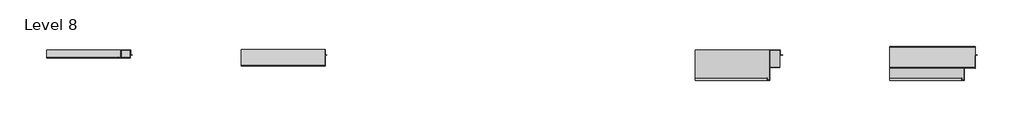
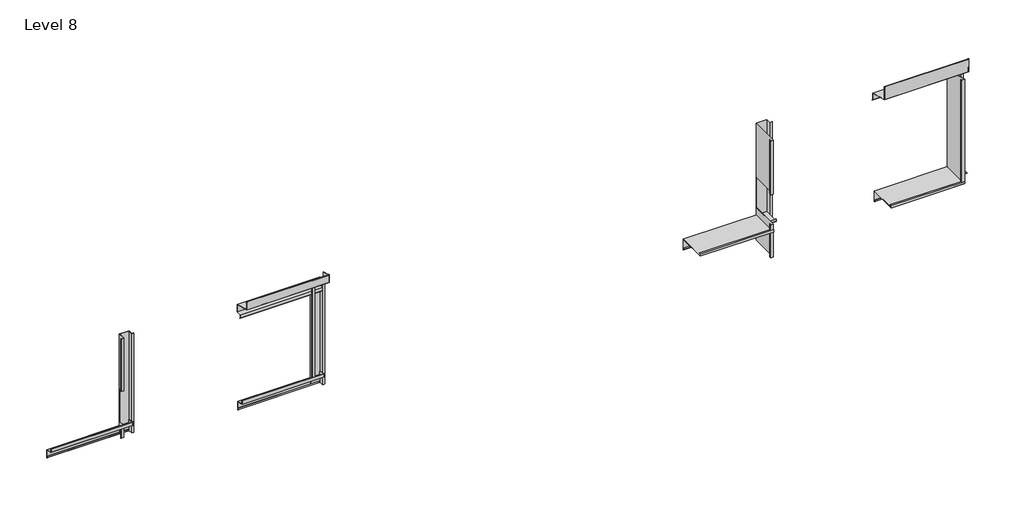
# One storey, incomplete: 12 proxies.
"""IFC4 building model written with IfcOpenShell, lengths in millimetres."""

import ifcopenshell
import ifcopenshell.guid

model = None  # the IFC model being written
_history = None  # IfcOwnerHistory: only IFC2X3 demands one
_inside = {}  # id of a spatial element -> (the spatial element, [elements in it])
_under = {}  # id of a project, library or spatial element -> (it, [spatial elements below it])
_declared = {}  # id of a project -> (the project, [libraries it declares])
_typed = {}  # id of a type object -> (the type object, [elements of that type])
_made_of = {}  # id of a material, layer set ... -> (it, [elements and type objects made of it])


def new_model(schema):
    """Start an empty IFC model of exactly this schema.

    Asked for "IFC4X3", IfcOpenShell would pick the latest addendum, in which some entities
    have other attributes; the version numbers below select the first issue.
    IFC2X3 requires an IfcOwnerHistory on every rooted entity: one is made here for all.
    """
    global model, _history
    if schema == "IFC4X3":
        model = ifcopenshell.file(schema_version=(4, 3, 0, 0))
    else:
        model = ifcopenshell.file(schema=schema)
    _inside.clear()
    _under.clear()
    _declared.clear()
    _typed.clear()
    _made_of.clear()
    _history = None
    if model.schema == "IFC2X3":
        org = make("IfcOrganization", Name="unknown")
        user = make(
            "IfcPersonAndOrganization",
            ThePerson=make("IfcPerson", FamilyName="unknown"),
            TheOrganization=org,
        )
        app = make(
            "IfcApplication",
            ApplicationDeveloper=org,
            Version="unknown",
            ApplicationFullName="unknown",
            ApplicationIdentifier="unknown",
        )
        _history = make(
            "IfcOwnerHistory",
            OwningUser=user,
            OwningApplication=app,
            ChangeAction="ADDED",
            CreationDate=0,
        )
    return model


def make(cls, **values):
    """One entity of the class cls with the attributes given. An attribute that is None is left unset."""
    return model.create_entity(
        cls, **{name: value for name, value in values.items() if value is not None}
    )


def rooted(cls, **values):
    """An entity with a GlobalId (a new one), such as an element, a storey or a relation."""
    return make(cls, GlobalId=ifcopenshell.guid.new(), OwnerHistory=_history, **values)


def si_unit(unit_type, name, prefix=None):
    """IfcSIUnit, for example si_unit("LENGTHUNIT", "METRE", prefix="MILLI")."""
    return make("IfcSIUnit", UnitType=unit_type, Prefix=prefix, Name=name)


def assignment(units):
    """IfcUnitAssignment: the units of a project."""
    return None if units is None else make("IfcUnitAssignment", Units=units)


def point(xyz):
    """IfcCartesianPoint."""
    return None if xyz is None else make("IfcCartesianPoint", Coordinates=xyz)


def direction(xyz):
    """IfcDirection."""
    return None if xyz is None else make("IfcDirection", DirectionRatios=xyz)


def frame(location, z_axis=None, x_axis=None):
    """IfcAxis2Placement3D, a coordinate frame: its origin and axes. An axis left out is left unset."""
    return make(
        "IfcAxis2Placement3D",
        Location=point(location),
        Axis=direction(z_axis),
        RefDirection=direction(x_axis),
    )


def frame_2d(location, x_axis=None):
    """IfcAxis2Placement2D, a coordinate frame in the plane: its origin and x axis."""
    return make(
        "IfcAxis2Placement2D", Location=point(location), RefDirection=direction(x_axis)
    )


def origin():
    """The frame at (0, 0, 0) with its axes left unset."""
    return frame((0.0, 0.0, 0.0))


def place(relative_to, where):
    """IfcLocalPlacement: puts the frame where relative to a parent placement (None: the world)."""
    return make(
        "IfcLocalPlacement", PlacementRelTo=relative_to, RelativePlacement=where
    )


def context(
    kind, dimensions, precision=None, world=None, true_north=None, identifier=None
):
    """IfcGeometricRepresentationContext, for example the 3D "Model" context."""
    return make(
        "IfcGeometricRepresentationContext",
        ContextIdentifier=identifier,
        ContextType=kind,
        CoordinateSpaceDimension=dimensions,
        Precision=precision,
        WorldCoordinateSystem=world,
        TrueNorth=true_north,
    )


def project(units=None, contexts=None):
    """IfcProject with its units and contexts."""
    return rooted(
        "IfcProject",
        Name="project",
        RepresentationContexts=contexts,
        UnitsInContext=assignment(units),
    )


def spatial(cls, under=None, at=None, **own):
    """A site, building, storey or space (cls), placed at a placement, below another one or the project."""
    s = rooted(cls, ObjectPlacement=at, **own)
    if under is not None:
        _under.setdefault(under.id(), (under, []))[1].append(s)
    return s


def polyline(points):
    """IfcPolyline through the points."""
    return make("IfcPolyline", Points=[point(p) for p in points])


def circle_curve(where, radius):
    """IfcCircle in the frame where."""
    return make("IfcCircle", Position=where, Radius=radius)


def trimmed(basis, trim1, trim2, sense, master):
    """IfcTrimmedCurve: the piece of a basis curve between two trims."""
    return make(
        "IfcTrimmedCurve",
        BasisCurve=basis,
        Trim1=trim1,
        Trim2=trim2,
        SenseAgreement=sense,
        MasterRepresentation=master,
    )


def segment(curve, same_sense, transition):
    """IfcCompositeCurveSegment."""
    return make(
        "IfcCompositeCurveSegment",
        Transition=transition,
        SameSense=same_sense,
        ParentCurve=curve,
    )


def composite_curve(segments, self_intersect=None):
    """IfcCompositeCurve: segments joined end to end."""
    return make("IfcCompositeCurve", Segments=segments, SelfIntersect=self_intersect)


def outline(outer, holes=None, kind="AREA"):
    """IfcArbitraryClosedProfileDef: a profile drawn as a closed curve; with holes, ...WithVoids."""
    if holes is None:
        return make("IfcArbitraryClosedProfileDef", ProfileType=kind, OuterCurve=outer)
    return make(
        "IfcArbitraryProfileDefWithVoids",
        ProfileType=kind,
        OuterCurve=outer,
        InnerCurves=holes,
    )


def extrude(swept, where, along, depth):
    """IfcExtrudedAreaSolid: the profile swept, set in the frame where, extruded along a direction by depth."""
    return make(
        "IfcExtrudedAreaSolid",
        SweptArea=swept,
        Position=where,
        ExtrudedDirection=direction(along),
        Depth=depth,
    )


def faces_of(points, faces, orient=None, outer=None):
    """IfcFace entities. A face is a list of loops; a loop is a list of indices into points, from 0.

    orient and outer hold one flag for each loop. By default every Orientation is true, the
    first loop of a face is its IfcFaceOuterBound and the others are IfcFaceBound.
    """
    made = []
    for i, loops in enumerate(faces):
        bounds = []
        for j, loop in enumerate(loops):
            is_outer = j == 0 if outer is None else outer[i][j]
            bounds.append(
                make(
                    "IfcFaceOuterBound" if is_outer else "IfcFaceBound",
                    Bound=make("IfcPolyLoop", Polygon=[points[k] for k in loop]),
                    Orientation=True if orient is None else orient[i][j],
                )
            )
        made.append(make("IfcFace", Bounds=bounds))
    return made


def faceted_brep(points, faces, orient=None, outer=None, voids=None):
    """IfcFacetedBrep: a solid bounded by flat faces; with voids (closed shells), ...WithVoids."""
    shared = [point(p) for p in points]
    hull = make("IfcClosedShell", CfsFaces=faces_of(shared, faces, orient, outer))
    if voids is None:
        return make("IfcFacetedBrep", Outer=hull)
    return make(
        "IfcFacetedBrepWithVoids",
        Outer=hull,
        Voids=[
            make(cls, CfsFaces=faces_of(shared, fs, o, b)) for cls, fs, o, b in voids
        ],
    )


def shape(context_of_items, identifier, shape_type, items):
    """IfcShapeRepresentation: the items that make up one representation, for example the "Body"."""
    return make(
        "IfcShapeRepresentation",
        ContextOfItems=context_of_items,
        RepresentationIdentifier=identifier,
        RepresentationType=shape_type,
        Items=items,
    )


def source(mapping_origin, context_of_items, identifier, shape_type, items):
    """IfcRepresentationMap: a shape defined once, which mapped items show again and again."""
    return make(
        "IfcRepresentationMap",
        MappingOrigin=mapping_origin,
        MappedRepresentation=shape(context_of_items, identifier, shape_type, items),
    )


def transform(
    local_origin,
    x_axis=None,
    y_axis=None,
    z_axis=None,
    scale=None,
    scale2=None,
    scale3=None,
    uniform=True,
):
    """IfcCartesianTransformationOperator3D, or its non-uniform kind. x_axis, y_axis, z_axis: its Axis1, 2, 3."""
    if uniform:
        return make(
            "IfcCartesianTransformationOperator3D",
            Axis1=direction(x_axis),
            Axis2=direction(y_axis),
            LocalOrigin=point(local_origin),
            Scale=scale,
            Axis3=direction(z_axis),
        )
    return make(
        "IfcCartesianTransformationOperator3DnonUniform",
        Axis1=direction(x_axis),
        Axis2=direction(y_axis),
        LocalOrigin=point(local_origin),
        Scale=scale,
        Axis3=direction(z_axis),
        Scale2=scale2,
        Scale3=scale3,
    )


def mapped(mapping_source, mapping_target):
    """IfcMappedItem: shows the shape of a source again, moved by a transform."""
    return make(
        "IfcMappedItem", MappingSource=mapping_source, MappingTarget=mapping_target
    )


def made_of(thing, what):
    """Note that an element or type object is made of a material, layer set ...; save() writes the relation."""
    if what is not None:
        _made_of.setdefault(what.id(), (what, []))[1].append(thing)
    return thing


def element(
    cls,
    number,
    at=None,
    inside=None,
    cuts=None,
    type_object=None,
    material=None,
    context=None,
    identifier="Body",
    shape_type=None,
    held_by="IfcProductDefinitionShape",
    body=None,
    shapes=None,
    **own,
):
    """One element of the class cls, such as IfcWall. Its Tag is "e" and its number.

    at: its placement. inside: the storey or other place that contains it. cuts: it is an
    opening in that element (IfcRelVoidsElement). A single representation is given by context,
    identifier, shape_type and body (its items); several are given by shapes. held_by: the class
    of the entity that holds the representations. save() writes the other relations.
    """
    e = rooted(cls, Tag="e%d" % number, ObjectPlacement=at, **own)
    if body is not None:
        shapes = [shape(context, identifier, shape_type, body)]
    if shapes is not None:
        e.Representation = make(held_by, Representations=shapes)
    if inside is not None:
        _inside.setdefault(inside.id(), (inside, []))[1].append(e)
    if cuts is not None:
        rooted(
            "IfcRelVoidsElement", RelatingBuildingElement=cuts, RelatedOpeningElement=e
        )
    if type_object is not None:
        _typed.setdefault(type_object.id(), (type_object, []))[1].append(e)
    return made_of(e, material)


def aggregate(whole, parts):
    """IfcRelAggregates: a whole, such as a stair, and the parts it consists of."""
    return rooted("IfcRelAggregates", RelatingObject=whole, RelatedObjects=parts)


def save(model, path):
    """Write the relations noted so far, then the file.

    IfcRelAggregates (storeys below a building ...), IfcRelContainedInSpatialStructure (elements
    in a storey), IfcRelDefinesByType, IfcRelAssociatesMaterial and IfcRelDeclares: one each for
    every whole, place, type object, material and project.
    """
    for whole, parts in _under.values():
        aggregate(whole, parts)
    for where, things in _inside.values():
        rooted(
            "IfcRelContainedInSpatialStructure",
            RelatedElements=things,
            RelatingStructure=where,
        )
    for kind, things in _typed.values():
        rooted("IfcRelDefinesByType", RelatedObjects=things, RelatingType=kind)
    for what, things in _made_of.values():
        rooted("IfcRelAssociatesMaterial", RelatedObjects=things, RelatingMaterial=what)
    for by, libraries in _declared.values():
        rooted("IfcRelDeclares", RelatingContext=by, RelatedDefinitions=libraries)
    model.write(path)


def plane_surface(at):
    """IfcPlane: the flat surface through the origin of the frame at, square to its z axis."""
    return make("IfcPlane", Position=at)


def cylinder_surface(at, radius):
    """IfcCylindricalSurface: all points at the distance radius from the z axis of the frame at."""
    return make("IfcCylindricalSurface", Position=at, Radius=radius)


def revolved_surface(curve, axis_point, axis_direction):
    """IfcSurfaceOfRevolution: the curve turned about the line through axis_point along axis_direction."""
    return make(
        "IfcSurfaceOfRevolution",
        SweptCurve=make("IfcArbitraryOpenProfileDef", ProfileType="CURVE", Curve=curve),
        AxisPosition=make("IfcAxis1Placement", Location=point(axis_point), Axis=direction(axis_direction)),
    )


def advanced_brep(points, edges, surfaces, faces):
    """IfcAdvancedBrep: a solid bounded by faces that lie on surfaces and meet in shared edges.

    An edge is (start, end): straight between two places in points (the first is 0);
    or (start, end, curve); or (start, end, curve, False) where it runs against its curve.
    A face is (place in surfaces, loops), or (place, loops, False) where it looks against
    its surface's normal. A loop lists edges by number (the first is 1), with a minus sign
    where the edge is run from its end to its start. The first loop is the outer one.
    """
    corners = [point(p) for p in points]
    vertices = [make("IfcVertexPoint", VertexGeometry=c) for c in corners]
    made = []
    for start, end, *more in edges:
        made.append(
            make(
                "IfcEdgeCurve",
                EdgeStart=vertices[start],
                EdgeEnd=vertices[end],
                EdgeGeometry=more[0] if more else make("IfcPolyline", Points=[corners[start], corners[end]]),
                SameSense=more[1] if len(more) > 1 else True,
            )
        )
    hull = []
    for where, loops, *sense in faces:
        bounds = []
        for j, loop in enumerate(loops):
            ring = [make("IfcOrientedEdge", EdgeElement=made[abs(k) - 1], Orientation=k > 0) for k in loop]
            bounds.append(
                make(
                    "IfcFaceOuterBound" if j == 0 else "IfcFaceBound",
                    Bound=make("IfcEdgeLoop", EdgeList=ring),
                    Orientation=True,
                )
            )
        hull.append(make("IfcAdvancedFace", Bounds=bounds, FaceSurface=surfaces[where], SameSense=sense[0] if sense else True))
    return make("IfcAdvancedBrep", Outer=make("IfcClosedShell", CfsFaces=hull))


def compressible_foam_seal_compressible_foam_seal_e6ba9b4f(model_context):
    return source(origin(), model_context, "Body", "SweptSolid", [
        extrude(outline(polyline([(659.8333305, -343.5448265), (672.2344915, -346.8677076), (672.2344915, -384.0410003), (659.8333305, -384.0410003), (659.8333305, -343.5448265)])), frame((13512.8302563, 0.0, 0.0), z_axis=(1.0, 0.0, 0.0), x_axis=(0.0, 1.0, 0.0)), (0.0, 0.0, 1.0), 179.5239223),
    ])


def flashing_recessed_window_jamb1_flashing_recessed_window_jamb_9e5676da(model_context):
    return source(origin(), model_context, "Body", "Brep", [
        faceted_brep([(13692.8541786, 626.9865096, -1055.1751138), (13692.8541786, 657.7344915, -1055.1751138), (13627.4791786, 657.7344915, -1055.1751138), (13627.4791786, 656.8026399, -1055.1751138), (13626.4791786, 656.8026399, -1055.1751138), (13626.4791786, 658.7344915, -1055.1751138), (13693.8541786, 658.7344915, -1055.1751138), (13693.8541786, 627.9865096, -1055.1751138), (13708.8541786, 627.9865096, -1055.1751138), (13708.8541786, 626.9865096, -1055.1751138), (13693.8541786, 658.7344915, -343.2151173), (13693.8541786, 627.9865096, -334.9762204), (13626.4791786, 658.7344915, -343.2151173), (13626.4791786, 656.8026399, -985.662203), (13626.4791786, 472.3615096, -985.662203), (13626.4791786, 472.3615096, -293.2766273), (13612.4791786, 472.3615096, -293.2766273), (13612.4791786, 472.3615096, -985.662203), (13612.4791786, 484.6872381, -296.5792963), (13612.4791786, 484.6872381, -985.662203), (13611.4791786, 484.6872381, -296.5792963), (13611.4791786, 484.6872381, -985.662203), (13611.4791786, 471.3615096, -293.0086781), (13611.4791786, 471.3615096, -985.662203), (13627.4791786, 471.3615096, -293.0086781), (13627.4791786, 471.3615096, -985.662203), (13627.4791786, 657.7344915, -342.9471681), (13627.4791786, 656.8026399, -985.662203), (13692.8541786, 657.7344915, -342.9471681), (13692.8541786, 626.9865096, -334.7082712), (13708.8541786, 626.9865096, -334.7082712), (13708.8541786, 627.9865096, -334.9762204)], [[[0, 1, 2, 3, 4, 5, 6, 7, 8, 9]], [[7, 6, 10, 11]], [[6, 5, 12, 10]], [[12, 5, 4, 13, 14, 15]], [[16, 15, 14, 17]], [[18, 16, 17, 19]], [[20, 18, 19, 21]], [[22, 20, 21, 23]], [[24, 22, 23, 25]], [[2, 26, 24, 25, 27, 3]], [[2, 1, 28, 26]], [[1, 0, 29, 28]], [[0, 9, 30, 29]], [[9, 8, 31, 30]], [[8, 7, 11, 31]], [[11, 10, 12, 15, 16, 18, 20, 22, 24, 26, 28, 29, 30, 31]], [[13, 27, 25, 23, 21, 19, 17, 14]], [[27, 13, 4, 3]]]),
    ])


def flashing_recessed_window_jamb2_flashing_recessed_window_jamb_4164510f(model_context):
    return source(origin(), model_context, "Body", "Brep", [
        faceted_brep([(9685.8470781, 626.4023812, -1036.7382524), (9685.8470781, 657.7344915, -1036.7382524), (9627.4791786, 657.7344915, -1036.7382524), (9627.4791786, 656.8026399, -1036.7382524), (9626.4791786, 656.8026399, -1036.7382524), (9626.4791786, 658.7344915, -1036.7382524), (9686.8470781, 658.7344915, -1036.7382524), (9686.8470781, 627.4023812, -1036.7382524), (9696.8470781, 627.4023812, -1036.7382524), (9696.8470781, 626.4023812, -1036.7382524), (9686.8470781, 658.7344915, -343.2151173), (9686.8470781, 627.4023812, -334.8197037), (9626.4791786, 658.7344915, -343.2151173), (9626.4791786, 656.8026399, -985.662203), (9626.4791786, 612.0490096, -973.6705039), (9626.4791786, 612.0490096, -330.7057801), (9610.4479286, 612.0490096, -330.7057801), (9610.4479286, 612.0490096, -973.6705039), (9610.4479286, 613.5934881, -331.1196219), (9610.4479286, 613.5934881, -974.0843457), (9609.4479286, 613.5934881, -331.1196219), (9609.4479286, 613.5934881, -974.0843457), (9609.4479286, 611.0490096, -330.4378309), (9609.4479286, 611.0490096, -973.4025548), (9627.4791786, 611.0490096, -330.4378309), (9627.4791786, 611.0490096, -973.4025548), (9627.4791786, 657.7344915, -342.9471681), (9627.4791786, 656.8026399, -985.662203), (9685.8470781, 657.7344915, -342.9471681), (9685.8470781, 626.4023812, -334.5517545), (9696.8470781, 626.4023812, -334.5517545), (9696.8470781, 627.4023812, -334.8197037)], [[[0, 1, 2, 3, 4, 5, 6, 7, 8, 9]], [[7, 6, 10, 11]], [[6, 5, 12, 10]], [[12, 5, 4, 13, 14, 15]], [[16, 15, 14, 17]], [[18, 16, 17, 19]], [[20, 18, 19, 21]], [[22, 20, 21, 23]], [[24, 22, 23, 25]], [[2, 26, 24, 25, 27, 3]], [[2, 1, 28, 26]], [[1, 0, 29, 28]], [[0, 9, 30, 29]], [[9, 8, 31, 30]], [[8, 7, 11, 31]], [[11, 10, 12, 15, 16, 18, 20, 22, 24, 26, 28, 29, 30, 31]], [[13, 27, 25, 23, 21, 19, 17, 14]], [[27, 13, 4, 3]]]),
    ])


def flashing_recessed_window_jamb4_flashing_recessed_window_jamb_f09892d5(model_context):
    return source(origin(), model_context, "Body", "Brep", [
        faceted_brep([(8486.8470781, 627.4023812, -277.6721404), (8486.8470781, 658.7344915, -277.6721404), (8426.4791786, 658.7344915, -277.6721404), (8426.4791786, 612.0490096, -277.6721404), (8410.4479286, 612.0490096, -277.6721404), (8410.4479286, 613.5934881, -277.6721404), (8409.4479286, 613.5934881, -277.6721404), (8409.4479286, 611.0490096, -277.6721404), (8427.4791786, 611.0490096, -277.6721404), (8427.4791786, 657.7344915, -277.6721404), (8485.8470781, 657.7344915, -277.6721404), (8485.8470781, 626.4023812, -277.6721404), (8496.8470781, 626.4023812, -277.6721404), (8496.8470781, 627.4023812, -277.6721404), (8485.8470781, 626.4023812, -938.2016371), (8485.8470781, 657.7344915, -938.2016371), (8427.4791786, 657.7344915, -938.2016371), (8427.4791786, 611.0490096, -938.2016371), (8409.4479286, 611.0490096, -938.2016371), (8409.4479286, 613.5934881, -938.2016371), (8410.4479286, 613.5934881, -938.2016371), (8410.4479286, 612.0490096, -938.2016371), (8426.4791786, 612.0490096, -938.2016371), (8426.4791786, 658.7344915, -938.2016371), (8486.8470781, 658.7344915, -938.2016371), (8486.8470781, 627.4023812, -938.2016371), (8496.8470781, 627.4023812, -938.2016371), (8496.8470781, 626.4023812, -938.2016371), (8426.4791786, 612.0490096, -854.2024508), (8426.4791786, 656.8026399, -866.1941499), (8426.4791786, 656.8026399, -638.7682442), (8426.4791786, 612.0490096, -626.7765451), (8410.4479286, 612.0490096, -626.7765451), (8410.4479286, 612.0490096, -854.2024508), (8410.4479286, 613.5934881, -627.1903869), (8410.4479286, 613.5934881, -854.6162925), (8409.4479286, 613.5934881, -627.1903869), (8409.4479286, 613.5934881, -854.6162925), (8409.4479286, 611.0490096, -626.5085959), (8409.4479286, 611.0490096, -853.9345016), (8427.4791786, 611.0490096, -626.5085959), (8427.4791786, 611.0490096, -853.9345016), (8427.4791786, 656.8026399, -638.7682442), (8427.4791786, 656.8026399, -866.1941499)], [[[0, 1, 2, 3, 4, 5, 6, 7, 8, 9, 10, 11, 12, 13]], [[14, 15, 16, 17, 18, 19, 20, 21, 22, 23, 24, 25, 26, 27]], [[1, 0, 25, 24]], [[2, 1, 24, 23]], [[3, 2, 23, 22, 28, 29, 30, 31]], [[4, 3, 31, 32]], [[22, 21, 33, 28]], [[5, 4, 32, 34]], [[21, 20, 35, 33]], [[6, 5, 34, 36]], [[20, 19, 37, 35]], [[7, 6, 36, 38]], [[19, 18, 39, 37]], [[8, 7, 38, 40]], [[18, 17, 41, 39]], [[9, 8, 40, 42, 43, 41, 17, 16]], [[10, 9, 16, 15]], [[11, 10, 15, 14]], [[12, 11, 14, 27]], [[13, 12, 27, 26]], [[0, 13, 26, 25]], [[43, 29, 28, 33, 35, 37, 39, 41]], [[30, 42, 40, 38, 36, 34, 32, 31]], [[29, 43, 42, 30]]]),
    ])


def flashing_recessed_window_jamb6_flashing_recessed_window_jamb_5558724c(model_context):
    return source(origin(), model_context, "Body", "Brep", [
        faceted_brep([(12493.8541786, 627.9865096, -277.6721404), (12493.8541786, 658.7344915, -277.6721404), (12426.4791786, 658.7344915, -277.6721404), (12426.4791786, 472.3615096, -277.6721404), (12412.4791786, 472.3615096, -277.6721404), (12412.4791786, 484.6872381, -277.6721404), (12411.4791786, 484.6872381, -277.6721404), (12411.4791786, 471.3615096, -277.6721404), (12427.4791786, 471.3615096, -277.6721404), (12427.4791786, 657.7344915, -277.6721404), (12492.8541786, 657.7344915, -277.6721404), (12492.8541786, 626.9865096, -277.6721404), (12508.8541786, 626.9865096, -277.6721404), (12508.8541786, 627.9865096, -277.6721404), (12492.8541786, 626.9865096, -1055.1751138), (12492.8541786, 657.7344915, -1055.1751138), (12427.4791786, 657.7344915, -1055.1751138), (12427.4791786, 471.3615096, -1055.1751138), (12411.4791786, 471.3615096, -1055.1751138), (12411.4791786, 484.6872381, -1055.1751138), (12412.4791786, 484.6872381, -1055.1751138), (12412.4791786, 472.3615096, -1055.1751138), (12426.4791786, 472.3615096, -1055.1751138), (12426.4791786, 658.7344915, -1055.1751138), (12493.8541786, 658.7344915, -1055.1751138), (12493.8541786, 627.9865096, -1055.1751138), (12508.8541786, 627.9865096, -1055.1751138), (12508.8541786, 626.9865096, -1055.1751138), (12426.4791786, 472.3615096, -835.662203), (12426.4791786, 656.8026399, -835.662203), (12426.4791786, 656.8026399, -635.662203), (12426.4791786, 472.3615096, -635.662203), (12412.4791786, 472.3615096, -635.662203), (12412.4791786, 472.3615096, -835.662203), (12412.4791786, 484.6872381, -635.662203), (12412.4791786, 484.6872381, -835.662203), (12411.4791786, 484.6872381, -635.662203), (12411.4791786, 484.6872381, -835.662203), (12411.4791786, 471.3615096, -635.662203), (12411.4791786, 471.3615096, -835.662203), (12427.4791786, 471.3615096, -635.662203), (12427.4791786, 471.3615096, -835.662203), (12427.4791786, 656.8026399, -635.662203), (12427.4791786, 656.8026399, -835.662203)], [[[0, 1, 2, 3, 4, 5, 6, 7, 8, 9, 10, 11, 12, 13]], [[14, 15, 16, 17, 18, 19, 20, 21, 22, 23, 24, 25, 26, 27]], [[1, 0, 25, 24]], [[2, 1, 24, 23]], [[3, 2, 23, 22, 28, 29, 30, 31]], [[4, 3, 31, 32]], [[22, 21, 33, 28]], [[5, 4, 32, 34]], [[21, 20, 35, 33]], [[6, 5, 34, 36]], [[20, 19, 37, 35]], [[7, 6, 36, 38]], [[19, 18, 39, 37]], [[8, 7, 38, 40]], [[18, 17, 41, 39]], [[9, 8, 40, 42, 43, 41, 17, 16]], [[10, 9, 16, 15]], [[11, 10, 15, 14]], [[12, 11, 14, 27]], [[13, 12, 27, 26]], [[0, 13, 26, 25]], [[30, 42, 40, 38, 36, 34, 32, 31]], [[43, 29, 28, 33, 35, 37, 39, 41]], [[42, 30, 29, 43]]]),
    ])


def flush_window_sill_end_flush_window_sill_end_780f0b00(model_context):
    return source(origin(), model_context, "Body", "SweptSolid", [
        extrude(outline(polyline([(12428.3060838, 471.3615096), (12427.4791786, 471.3615096), (12427.4791786, 550.3594915), (12490.7910961, 550.3594915), (12490.7910961, 549.5325864), (12428.3060838, 549.5325864), (12428.3060838, 471.3615096)])), frame((0.0, 0.0, -885.662203), z_axis=(0.0, 0.0, 1.0), x_axis=(1.0, 0.0, 0.0)), (0.0, 0.0, 1.0), 13.9452881),
    ])


def roof_b_apron_flashing_10_roof_b_apron_flashing_c9c9762f(model_context):
    return source(origin(), model_context, "Body", "SweptSolid", [
        extrude(outline(polyline([(660.2773132, -392.0096237), (627.4023812, -392.0096237), (627.4023812, -333.2008122), (660.2773132, -342.0096237), (660.2773132, -392.0096237)])), frame((9686.0219031, 0.0, 0.0), z_axis=(1.0, 0.0, 0.0), x_axis=(0.0, 1.0, 0.0)), (0.0, 0.0, 1.0), 1.3240587),
        extrude(outline(polyline([(620.4882944, -283.1155152), (620.4882944, -332.3834644), (557.4043312, -315.4801674), (557.4043312, -266.2122183), (620.4882944, -283.1155152)])), frame((9686.0219031, 0.0, 0.0), z_axis=(1.0, 0.0, 0.0), x_axis=(0.0, 1.0, 0.0)), (0.0, 0.0, 1.0), 1.3240587),
        extrude(outline(composite_curve([segment(polyline([(660.2773132, -342.0096237), (660.2773132, -392.0096237), (627.6739483, -392.0096237), (627.6739483, -410.3959053), (632.884848, -417.8378413), (632.065696, -418.4114178), (626.6739483, -410.7112041), (626.6739483, -391.0096237), (659.2773132, -391.0096237), (659.2773132, -342.7769507), (557.4043312, -315.4801674), (557.4043312, -264.8977528)]), True, "CONTINUOUS"), segment(trimmed(circle_curve(frame_2d((558.0833754, -264.8977528)), 0.6790442), [point((557.4043312, -264.8977528))], [point((558.7129742, -264.6433784))], False, "CARTESIAN"), True, "CONTINUOUS"), segment(polyline([(558.7129742, -264.6433784), (561.1274291, -270.6193639)]), True, "CONTINUOUS"), segment(trimmed(circle_curve(frame_2d((560.6638371, -270.8066672)), 0.5), [point((561.1274291, -270.6193639))], [point((560.2002452, -270.9939705))], False, "CARTESIAN"), True, "CONTINUOUS"), segment(polyline([(560.2002452, -270.9939705), (558.4043312, -266.5489273), (558.4043312, -314.7128405), (660.2773132, -342.0096237)]), True, "CONTINUOUS")], self_intersect=False)), frame((9166.9913177, 0.0, 0.0), z_axis=(1.0, 0.0, 0.0), x_axis=(0.0, 1.0, 0.0)), (0.0, 0.0, 1.0), 519.0305854),
    ])


def roof_b_apron_flashing_12_roof_b_apron_flashing_53073ad8(model_context):
    return source(origin(), model_context, "Body", "AdvancedBrep", [
        advanced_brep(
        [(12490.7910961, 655.8026399, -986.662203), (12490.7910961, 655.8026399, -1055.0764166), (12490.7910961, 654.8026399, -1055.0764166), (12490.7910961, 654.8026399, -1045.1233066), (12490.7910961, 653.8026399, -1045.1233066), (12490.7910961, 653.8026399, -1055.0764166), (12490.7910961, 656.8026399, -1055.0764166), (12490.7910961, 656.8026399, -985.662203), (12490.7910961, 550.3594915, -985.662203), (12490.7910961, 550.3594915, -986.662203), (11967.4791786, 656.8026399, -985.662203), (11967.4791786, 656.8026399, -1055.0764166), (11967.4791786, 653.8026399, -1055.0764166), (11967.4791786, 653.8026399, -1045.1233066), (11967.4791786, 654.8026399, -1045.1233066), (11967.4791786, 654.8026399, -1055.0764166), (11967.4791786, 655.8026399, -1055.0764166), (11967.4791786, 655.8026399, -986.662203), (11967.4791786, 470.3615096, -986.662203), (11967.4791786, 470.3615096, -971.662203), (11967.4791786, 481.3998223, -971.662203), (11967.4791786, 481.3998223, -972.662203), (11967.4791786, 471.3615096, -972.662203), (11967.4791786, 471.3615096, -985.662203), (12427.4791786, 471.3615096, -985.662203), (12427.4791786, 550.3594915, -985.662203), (12427.4791786, 550.3594915, -986.662203), (12427.4791786, 470.3615096, -986.662203), (12411.3516031, 471.3615096, -972.662203), (12411.3516031, 471.3615096, -971.662203), (12427.4791786, 471.3615096, -971.662203), (12411.3516031, 481.3998223, -972.662203), (12411.3516031, 481.3998223, -971.662203), (12427.4791786, 470.3615096, -971.662203)],
        [
            (0, 1),
            (1, 2, circle_curve(frame((12490.7910961, 655.3026399, -1055.0764166), z_axis=(-1.0, 0.0, 0.0), x_axis=(0.0, 0.0, 1.0)), 0.5)),
            (2, 3),
            (3, 4),
            (4, 5),
            (5, 6, circle_curve(frame((12490.7910961, 655.3026399, -1055.0764166), z_axis=(1.0, 0.0, 0.0), x_axis=(0.0, 0.0, 1.0)), 1.5)),
            (6, 7),
            (7, 8),
            (8, 9),
            (9, 0),
            (10, 11),
            (11, 12, circle_curve(frame((11967.4791786, 655.3026399, -1055.0764166), z_axis=(-1.0, 0.0, 0.0), x_axis=(0.0, 0.0, 1.0)), 1.5)),
            (12, 13),
            (13, 14),
            (14, 15),
            (15, 16, circle_curve(frame((11967.4791786, 655.3026399, -1055.0764166), z_axis=(1.0, 0.0, 0.0), x_axis=(0.0, 0.0, 1.0)), 0.5)),
            (16, 17),
            (17, 18),
            (18, 19),
            (19, 20),
            (20, 21),
            (21, 22),
            (22, 23),
            (23, 10),
            (23, 24),
            (24, 25),
            (25, 8),
            (7, 10),
            (17, 0),
            (9, 26),
            (26, 27),
            (27, 18),
            (16, 1),
            (6, 11),
            (22, 28),
            (28, 29),
            (29, 30),
            (30, 24),
            (21, 31),
            (31, 28),
            (20, 32),
            (32, 31),
            (19, 33),
            (33, 30),
            (29, 32),
            (27, 33),
            (15, 2),
            (14, 3),
            (13, 4),
            (12, 5),
            (26, 25),
        ],
        [
            plane_surface(frame((12490.7910961, 462.3294164, -1042.7388515), z_axis=(1.0, 0.0, 0.0), x_axis=(0.0, 1.0, 0.0))),
            plane_surface(frame((11967.4791786, 462.3294164, -1042.7388515), z_axis=(-1.0, 0.0, 0.0), x_axis=(0.0, 1.0, 0.0))),
            plane_surface(frame((12490.7910961, 656.8026399, -985.662203), z_axis=(0.0, 0.0, 1.0), x_axis=(-1.0, 0.0, 0.0))),
            plane_surface(frame((12490.7910961, 470.3615096, -986.662203), z_axis=(0.0, 0.0, -1.0), x_axis=(-1.0, 0.0, 0.0))),
            plane_surface(frame((12490.7910961, 655.8026399, -986.662203), z_axis=(0.0, -1.0, 0.0), x_axis=(-1.0, 0.0, 0.0))),
            plane_surface(frame((12490.7910961, 656.8026399, -1055.0764166), z_axis=(0.0, 1.0, 0.0), x_axis=(-1.0, 0.0, 0.0))),
            plane_surface(frame((12490.7910961, 471.3615096, -985.662203), z_axis=(0.0, 1.0, 0.0), x_axis=(-1.0, 0.0, 0.0))),
            plane_surface(frame((12490.7910961, 471.3615096, -972.662203), z_axis=(0.0, 0.0, -1.0), x_axis=(-1.0, 0.0, 0.0))),
            plane_surface(frame((12490.7910961, 481.3998223, -972.662203), z_axis=(0.0, 1.0, 0.0), x_axis=(-1.0, 0.0, 0.0))),
            plane_surface(frame((12490.7910961, 481.3998223, -971.662203), z_axis=(0.0, 0.0, 1.0), x_axis=(-1.0, 0.0, 0.0))),
            plane_surface(frame((12490.7910961, 470.3615096, -971.662203), z_axis=(0.0, -1.0, 0.0), x_axis=(-1.0, 0.0, 0.0))),
            revolved_surface(polyline([(11967.4791786, 655.3026399, -1054.5764166), (12490.7910961, 655.3026399, -1054.5764166)]), (12490.7910961, 655.3026399, -1055.0764166), (-1.0, 0.0, 0.0)),
            plane_surface(frame((12490.7910961, 654.8026399, -1055.0764166), z_axis=(0.0, 1.0, 0.0), x_axis=(-1.0, 0.0, 0.0))),
            plane_surface(frame((12490.7910961, 654.8026399, -1045.1233066), z_axis=(0.0, 0.0, 1.0), x_axis=(-1.0, 0.0, 0.0))),
            plane_surface(frame((12490.7910961, 653.8026399, -1045.1233066), z_axis=(0.0, -1.0, 0.0), x_axis=(-1.0, 0.0, 0.0))),
            cylinder_surface(frame((12490.7910961, 655.3026399, -1055.0764166), z_axis=(1.0, 0.0, 0.0), x_axis=(0.0, 0.0, 1.0)), 1.5),
            plane_surface(frame((12427.4791786, 550.3594915, -1079.9089722), z_axis=(1.0, 0.0, 0.0), x_axis=(0.0, -0.9659258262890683, 0.25881904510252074))),
            plane_surface(frame((12427.4791786, 550.3594915, -852.4830665), z_axis=(0.0, -1.0, 0.0), x_axis=(1.0, 0.0, 0.0))),
            plane_surface(frame((12411.3516031, 471.3615603, -884.3834078), z_axis=(1.0, 0.0, 0.0), x_axis=(0.0, 0.0, -1.0))),
        ],
        [
            (0, [[1, 2, 3, 4, 5, 6, 7, 8, 9, 10]]),
            (1, [[11, 12, 13, 14, 15, 16, 17, 18, 19, 20, 21, 22, 23, 24]]),
            (2, [[-24, 25, 26, 27, -8, 28]]),
            (3, [[-18, 29, -10, 30, 31, 32]]),
            (4, [[-1, -29, -17, 33]]),
            (5, [[-7, 34, -11, -28]]),
            (6, [[-23, 35, 36, 37, 38, -25]]),
            (7, [[-22, 39, 40, -35]]),
            (8, [[-21, 41, 42, -39]]),
            (9, [[-20, 43, 44, -37, 45, -41]]),
            (10, [[-19, -32, 46, -43]]),
            (11, [[-2, -33, -16, 47]]),
            (12, [[-3, -47, -15, 48]]),
            (13, [[-4, -48, -14, 49]]),
            (14, [[-5, -49, -13, 50]]),
            (15, [[-6, -50, -12, -34]]),
            (16, [[51, -26, -38, -44, -46, -31]]),
            (17, [[-51, -30, -9, -27]]),
            (18, [[-36, -40, -42, -45]]),
        ],
    ),
    ])


def roof_b_apron_flashing_3_roof_b_apron_flashing_d6d039fe(model_context):
    return source(origin(), model_context, "Body", "SweptSolid", [
        extrude(outline(polyline([(608.0490096, -873.6339834), (608.0490096, -853.130654), (656.8026399, -866.1941499), (656.8026399, -886.6974792), (608.0490096, -873.6339834)])), frame((8482.4791786, 0.0, 0.0), z_axis=(1.0, 0.0, 0.0), x_axis=(0.0, 1.0, 0.0)), (0.0, 0.0, 1.0), 0.8428395),
        extrude(outline(composite_curve([segment(polyline([(656.8026399, -885.662203), (656.8026399, -937.6563748)]), True, "CONTINUOUS"), segment(trimmed(circle_curve(frame_2d((655.3026399, -937.6563748)), 1.5), [point((656.8026399, -937.6563748))], [point((653.8026399, -937.6563748))], False, "CARTESIAN"), True, "CONTINUOUS"), segment(polyline([(653.8026399, -937.6563748), (653.8026399, -927.6933761), (654.8026399, -927.6933761), (654.8026399, -937.6563748)]), True, "CONTINUOUS"), segment(trimmed(circle_curve(frame_2d((655.3026399, -937.6563748)), 0.5), [point((654.8026399, -937.6563748))], [point((655.8026399, -937.6563748))], True, "CARTESIAN"), True, "CONTINUOUS"), segment(polyline([(655.8026399, -937.6563748), (655.8026399, -886.42953), (608.0490096, -873.6339834), (608.0490096, -853.3538686)]), True, "CONTINUOUS"), segment(trimmed(circle_curve(frame_2d((609.2990096, -853.3538686)), 1.25), [point((608.0490096, -853.3538686))], [point((610.5490096, -853.3538686))], False, "CARTESIAN"), True, "CONTINUOUS"), segment(polyline([(610.5490096, -853.3538686), (610.5490096, -862.6360034)]), True, "CONTINUOUS"), segment(trimmed(circle_curve(frame_2d((610.0490096, -862.6360034)), 0.5), [point((610.5490096, -862.6360034))], [point((609.5490096, -862.6360034))], False, "CARTESIAN"), True, "CONTINUOUS"), segment(polyline([(609.5490096, -862.6360034), (609.5490096, -853.3538686)]), True, "CONTINUOUS"), segment(trimmed(circle_curve(frame_2d((609.2990096, -853.3538686)), 0.25), [point((609.5490096, -853.3538686))], [point((609.0490096, -853.3538686))], True, "CARTESIAN"), True, "CONTINUOUS"), segment(polyline([(609.0490096, -853.3538686), (609.0490096, -872.8666564), (656.8026399, -885.662203)]), True, "CONTINUOUS")], self_intersect=False)), frame((7967.4791786, 0.0, 0.0), z_axis=(1.0, 0.0, 0.0), x_axis=(0.0, 1.0, 0.0)), (0.0, 0.0, 1.0), 515.0),
    ])


def roof_b_apron_flashing_5_roof_b_apron_flashing_b6b94ec3(model_context):
    return source(origin(), model_context, "Body", "SweptSolid", [
        extrude(outline(polyline([(673.2344915, -388.7215885), (627.9865096, -376.5974283), (627.9865096, -333.9762204), (673.2344915, -346.1003806), (673.2344915, -388.7215885)])), frame((13694.3541786, 0.0, 0.0), z_axis=(1.0, 0.0, 0.0), x_axis=(0.0, 1.0, 0.0)), (0.0, 0.0, 1.0), 2.0),
        extrude(outline(polyline([(622.9865096, -331.6011982), (544.8615096, -310.6676676), (544.8615096, -279.7934577), (622.9865096, -300.7269884), (622.9865096, -331.6011982)])), frame((13694.3541786, 0.0, 0.0), z_axis=(1.0, 0.0, 0.0), x_axis=(0.0, 1.0, 0.0)), (0.0, 0.0, 1.0), 2.0),
        extrude(outline(composite_curve([segment(polyline([(674.2344915, -345.3330536), (674.2344915, -388.338713), (680.2651268, -394.3693483), (679.55802, -395.0764551), (673.2344915, -388.7529266), (673.2344915, -346.1003806), (544.8615096, -311.7029438), (544.8615096, -225.8538686)]), True, "CONTINUOUS"), segment(trimmed(circle_curve(frame_2d((545.5405538, -225.8538686)), 0.6790442), [point((544.8615096, -225.8538686))], [point((546.1701526, -225.5994942))], False, "CARTESIAN"), True, "CONTINUOUS"), segment(polyline([(546.1701526, -225.5994942), (548.5846074, -231.5754797)]), True, "CONTINUOUS"), segment(trimmed(circle_curve(frame_2d((548.1210155, -231.762783)), 0.5), [point((548.5846074, -231.5754797))], [point((547.6574236, -231.9500863))], False, "CARTESIAN"), True, "CONTINUOUS"), segment(polyline([(547.6574236, -231.9500863), (545.8615096, -227.5050431), (545.8615096, -310.9356168), (674.2344915, -345.3330536)]), True, "CONTINUOUS")], self_intersect=False)), frame((13167.4791786, 0.0, 0.0), z_axis=(1.0, 0.0, 0.0), x_axis=(0.0, 1.0, 0.0)), (0.0, 0.0, 1.0), 528.875),
    ])


def roof_b_apron_flashing_6_roof_b_apron_flashing_f8963a3d(model_context):
    return source(origin(), model_context, "Body", "AdvancedBrep", [
        advanced_brep(
        [(13690.7910961, 655.8026399, -986.662203), (13690.7910961, 655.8026399, -1055.0764166), (13690.7910961, 654.8026399, -1055.0764166), (13690.7910961, 654.8026399, -1045.1233066), (13690.7910961, 653.8026399, -1045.1233066), (13690.7910961, 653.8026399, -1055.0764166), (13690.7910961, 656.8026399, -1055.0764166), (13690.7910961, 656.8026399, -985.662203), (13690.7910961, 550.3594915, -985.662203), (13690.7910961, 550.3594915, -986.662203), (13167.4791786, 656.8026399, -985.662203), (13167.4791786, 656.8026399, -1055.0764166), (13167.4791786, 653.8026399, -1055.0764166), (13167.4791786, 653.8026399, -1045.1233066), (13167.4791786, 654.8026399, -1045.1233066), (13167.4791786, 654.8026399, -1055.0764166), (13167.4791786, 655.8026399, -1055.0764166), (13167.4791786, 655.8026399, -986.662203), (13167.4791786, 470.3615096, -986.662203), (13167.4791786, 470.3615096, -971.662203), (13167.4791786, 481.3998223, -971.662203), (13167.4791786, 481.3998223, -972.662203), (13167.4791786, 471.3615096, -972.662203), (13167.4791786, 471.3615096, -985.662203), (13627.4791786, 471.3615096, -985.662203), (13627.4791786, 550.3594915, -985.662203), (13627.4791786, 550.3594915, -986.662203), (13627.4791786, 470.3615096, -986.662203), (13611.3516031, 471.3615096, -972.662203), (13611.3516031, 471.3615096, -971.662203), (13627.4791786, 471.3615096, -971.662203), (13611.3516031, 481.3998223, -972.662203), (13611.3516031, 481.3998223, -971.662203), (13627.4791786, 470.3615096, -971.662203)],
        [
            (0, 1),
            (1, 2, circle_curve(frame((13690.7910961, 655.3026399, -1055.0764166), z_axis=(-1.0, 0.0, 0.0), x_axis=(0.0, 0.0, 1.0)), 0.5)),
            (2, 3),
            (3, 4),
            (4, 5),
            (5, 6, circle_curve(frame((13690.7910961, 655.3026399, -1055.0764166), z_axis=(1.0, 0.0, 0.0), x_axis=(0.0, 0.0, 1.0)), 1.5)),
            (6, 7),
            (7, 8),
            (8, 9),
            (9, 0),
            (10, 11),
            (11, 12, circle_curve(frame((13167.4791786, 655.3026399, -1055.0764166), z_axis=(-1.0, 0.0, 0.0), x_axis=(0.0, 0.0, 1.0)), 1.5)),
            (12, 13),
            (13, 14),
            (14, 15),
            (15, 16, circle_curve(frame((13167.4791786, 655.3026399, -1055.0764166), z_axis=(1.0, 0.0, 0.0), x_axis=(0.0, 0.0, 1.0)), 0.5)),
            (16, 17),
            (17, 18),
            (18, 19),
            (19, 20),
            (20, 21),
            (21, 22),
            (22, 23),
            (23, 10),
            (23, 24),
            (24, 25),
            (25, 8),
            (7, 10),
            (17, 0),
            (9, 26),
            (26, 27),
            (27, 18),
            (16, 1),
            (6, 11),
            (22, 28),
            (28, 29),
            (29, 30),
            (30, 24),
            (21, 31),
            (31, 28),
            (20, 32),
            (32, 31),
            (19, 33),
            (33, 30),
            (29, 32),
            (27, 33),
            (15, 2),
            (14, 3),
            (13, 4),
            (12, 5),
            (26, 25),
        ],
        [
            plane_surface(frame((13690.7910961, 462.3294164, -1042.7388515), z_axis=(1.0, 0.0, 0.0), x_axis=(0.0, 1.0, 0.0))),
            plane_surface(frame((13167.4791786, 462.3294164, -1042.7388515), z_axis=(-1.0, 0.0, 0.0), x_axis=(0.0, 1.0, 0.0))),
            plane_surface(frame((13690.7910961, 656.8026399, -985.662203), z_axis=(0.0, 0.0, 1.0), x_axis=(-1.0, 0.0, 0.0))),
            plane_surface(frame((13690.7910961, 470.3615096, -986.662203), z_axis=(0.0, 0.0, -1.0), x_axis=(-1.0, 0.0, 0.0))),
            plane_surface(frame((13690.7910961, 655.8026399, -986.662203), z_axis=(0.0, -1.0, 0.0), x_axis=(-1.0, 0.0, 0.0))),
            plane_surface(frame((13690.7910961, 656.8026399, -1055.0764166), z_axis=(0.0, 1.0, 0.0), x_axis=(-1.0, 0.0, 0.0))),
            plane_surface(frame((13690.7910961, 471.3615096, -985.662203), z_axis=(0.0, 1.0, 0.0), x_axis=(-1.0, 0.0, 0.0))),
            plane_surface(frame((13690.7910961, 471.3615096, -972.662203), z_axis=(0.0, 0.0, -1.0), x_axis=(-1.0, 0.0, 0.0))),
            plane_surface(frame((13690.7910961, 481.3998223, -972.662203), z_axis=(0.0, 1.0, 0.0), x_axis=(-1.0, 0.0, 0.0))),
            plane_surface(frame((13690.7910961, 481.3998223, -971.662203), z_axis=(0.0, 0.0, 1.0), x_axis=(-1.0, 0.0, 0.0))),
            plane_surface(frame((13690.7910961, 470.3615096, -971.662203), z_axis=(0.0, -1.0, 0.0), x_axis=(-1.0, 0.0, 0.0))),
            revolved_surface(polyline([(13167.4791786, 655.3026399, -1054.5764166), (13690.7910961, 655.3026399, -1054.5764166)]), (13690.7910961, 655.3026399, -1055.0764166), (-1.0, 0.0, 0.0)),
            plane_surface(frame((13690.7910961, 654.8026399, -1055.0764166), z_axis=(0.0, 1.0, 0.0), x_axis=(-1.0, 0.0, 0.0))),
            plane_surface(frame((13690.7910961, 654.8026399, -1045.1233066), z_axis=(0.0, 0.0, 1.0), x_axis=(-1.0, 0.0, 0.0))),
            plane_surface(frame((13690.7910961, 653.8026399, -1045.1233066), z_axis=(0.0, -1.0, 0.0), x_axis=(-1.0, 0.0, 0.0))),
            cylinder_surface(frame((13690.7910961, 655.3026399, -1055.0764166), z_axis=(1.0, 0.0, 0.0), x_axis=(0.0, 0.0, 1.0)), 1.5),
            plane_surface(frame((13627.4791786, 550.3594915, -1079.9089722), z_axis=(1.0, 0.0, 0.0), x_axis=(0.0, -0.9659258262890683, 0.25881904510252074))),
            plane_surface(frame((13627.4791786, 550.3594915, -852.4830665), z_axis=(0.0, -1.0, 0.0), x_axis=(1.0, 0.0, 0.0))),
            plane_surface(frame((13611.3516031, 471.3615603, -884.3834078), z_axis=(1.0, 0.0, 0.0), x_axis=(0.0, 0.0, -1.0))),
        ],
        [
            (0, [[1, 2, 3, 4, 5, 6, 7, 8, 9, 10]]),
            (1, [[11, 12, 13, 14, 15, 16, 17, 18, 19, 20, 21, 22, 23, 24]]),
            (2, [[-24, 25, 26, 27, -8, 28]]),
            (3, [[-18, 29, -10, 30, 31, 32]]),
            (4, [[-1, -29, -17, 33]]),
            (5, [[-7, 34, -11, -28]]),
            (6, [[-23, 35, 36, 37, 38, -25]]),
            (7, [[-22, 39, 40, -35]]),
            (8, [[-21, 41, 42, -39]]),
            (9, [[-20, 43, 44, -37, 45, -41]]),
            (10, [[-19, -32, 46, -43]]),
            (11, [[-2, -33, -16, 47]]),
            (12, [[-3, -47, -15, 48]]),
            (13, [[-4, -48, -14, 49]]),
            (14, [[-5, -49, -13, 50]]),
            (15, [[-6, -50, -12, -34]]),
            (16, [[51, -26, -38, -44, -46, -31]]),
            (17, [[-51, -30, -9, -27]]),
            (18, [[-36, -40, -42, -45]]),
        ],
    ),
    ])


def roof_b_apron_flashing_8_roof_b_apron_flashing_57c60d25(model_context):
    return source(origin(), model_context, "Body", "SweptSolid", [
        extrude(outline(polyline([(608.0490096, -973.6339834), (608.0490096, -953.130654), (656.8026399, -966.1941499), (656.8026399, -986.6974792), (608.0490096, -973.6339834)])), frame((9682.4791786, 0.0, 0.0), z_axis=(1.0, 0.0, 0.0), x_axis=(0.0, 1.0, 0.0)), (0.0, 0.0, 1.0), 0.8428395),
        extrude(outline(composite_curve([segment(polyline([(656.8026399, -985.662203), (656.8026399, -1037.6563748)]), True, "CONTINUOUS"), segment(trimmed(circle_curve(frame_2d((655.3026399, -1037.6563748)), 1.5), [point((656.8026399, -1037.6563748))], [point((653.8026399, -1037.6563748))], False, "CARTESIAN"), True, "CONTINUOUS"), segment(polyline([(653.8026399, -1037.6563748), (653.8026399, -1027.6933761), (654.8026399, -1027.6933761), (654.8026399, -1037.6563748)]), True, "CONTINUOUS"), segment(trimmed(circle_curve(frame_2d((655.3026399, -1037.6563748)), 0.5), [point((654.8026399, -1037.6563748))], [point((655.8026399, -1037.6563748))], True, "CARTESIAN"), True, "CONTINUOUS"), segment(polyline([(655.8026399, -1037.6563748), (655.8026399, -986.42953), (608.0490096, -973.6339834), (608.0490096, -953.3538686)]), True, "CONTINUOUS"), segment(trimmed(circle_curve(frame_2d((609.2990096, -953.3538686)), 1.25), [point((608.0490096, -953.3538686))], [point((610.5490096, -953.3538686))], False, "CARTESIAN"), True, "CONTINUOUS"), segment(polyline([(610.5490096, -953.3538686), (610.5490096, -962.6360034)]), True, "CONTINUOUS"), segment(trimmed(circle_curve(frame_2d((610.0490096, -962.6360034)), 0.5), [point((610.5490096, -962.6360034))], [point((609.5490096, -962.6360034))], False, "CARTESIAN"), True, "CONTINUOUS"), segment(polyline([(609.5490096, -962.6360034), (609.5490096, -953.3538686)]), True, "CONTINUOUS"), segment(trimmed(circle_curve(frame_2d((609.2990096, -953.3538686)), 0.25), [point((609.5490096, -953.3538686))], [point((609.0490096, -953.3538686))], True, "CARTESIAN"), True, "CONTINUOUS"), segment(polyline([(609.0490096, -953.3538686), (609.0490096, -972.8666564), (656.8026399, -985.662203)]), True, "CONTINUOUS")], self_intersect=False)), frame((9167.4791786, 0.0, 0.0), z_axis=(1.0, 0.0, 0.0), x_axis=(0.0, 1.0, 0.0)), (0.0, 0.0, 1.0), 515.0),
    ])


model = new_model("IFC4")

# Units and contexts
model_context = context("Model", 3, world=origin())
ifc_project = project(units=[si_unit("LENGTHUNIT", "METRE", prefix="MILLI")], contexts=[model_context])

# Site, building, storey
site = spatial("IfcSite", under=ifc_project)
building = spatial("IfcBuilding", under=site)
storey = spatial("IfcBuildingStorey", under=building, Name="Level 8", Elevation=-371.5732141)

# Proxies
placement = place(None, origin())
compressible_foam_seal_compressible_foam_seal_shape = compressible_foam_seal_compressible_foam_seal_e6ba9b4f(model_context)
element("IfcBuildingElementProxy", 1, Name="Compressible foam seal : Compressible foam seal", ObjectType="Compressible foam seal : Compressible foam seal", at=placement, inside=storey, context=model_context, shape_type="MappedRepresentation", body=[
    mapped(compressible_foam_seal_compressible_foam_seal_shape, transform((0.0, 0.0, 0.0), x_axis=(1.0, 0.0, 0.0), y_axis=(0.0, 1.0, 0.0), z_axis=(0.0, 0.0, 1.0))),
])
flashing_recessed_window_jamb1_flashing_recessed_window_jamb_shape = flashing_recessed_window_jamb1_flashing_recessed_window_jamb_9e5676da(model_context)
element("IfcBuildingElementProxy", 2, Name="Flashing_Recessed Window Jamb1 : Flashing_Recessed Window Jamb", ObjectType="Flashing_Recessed Window Jamb1 : Flashing_Recessed Window Jamb", at=placement, inside=storey, context=model_context, shape_type="MappedRepresentation", body=[
    mapped(flashing_recessed_window_jamb1_flashing_recessed_window_jamb_shape, transform((0.0, 0.0, 0.0), x_axis=(1.0, 0.0, 0.0), y_axis=(0.0, 1.0, 0.0), z_axis=(0.0, 0.0, 1.0))),
])
flashing_recessed_window_jamb2_flashing_recessed_window_jamb_shape = flashing_recessed_window_jamb2_flashing_recessed_window_jamb_4164510f(model_context)
element("IfcBuildingElementProxy", 3, Name="Flashing_Recessed Window Jamb2 : Flashing_Recessed Window Jamb", ObjectType="Flashing_Recessed Window Jamb2 : Flashing_Recessed Window Jamb", at=placement, inside=storey, context=model_context, shape_type="MappedRepresentation", body=[
    mapped(flashing_recessed_window_jamb2_flashing_recessed_window_jamb_shape, transform((0.0, 0.0, 0.0), x_axis=(1.0, 0.0, 0.0), y_axis=(0.0, 1.0, 0.0), z_axis=(0.0, 0.0, 1.0))),
])
flashing_recessed_window_jamb4_flashing_recessed_window_jamb_shape = flashing_recessed_window_jamb4_flashing_recessed_window_jamb_f09892d5(model_context)
element("IfcBuildingElementProxy", 4, Name="Flashing_Recessed Window Jamb4 : Flashing_Recessed Window Jamb", ObjectType="Flashing_Recessed Window Jamb4 : Flashing_Recessed Window Jamb", at=placement, inside=storey, context=model_context, shape_type="MappedRepresentation", body=[
    mapped(flashing_recessed_window_jamb4_flashing_recessed_window_jamb_shape, transform((0.0, 0.0, 0.0), x_axis=(1.0, 0.0, 0.0), y_axis=(0.0, 1.0, 0.0), z_axis=(0.0, 0.0, 1.0))),
])
flashing_recessed_window_jamb6_flashing_recessed_window_jamb_shape = flashing_recessed_window_jamb6_flashing_recessed_window_jamb_5558724c(model_context)
element("IfcBuildingElementProxy", 5, Name="Flashing_Recessed Window Jamb6 : Flashing_Recessed Window Jamb", ObjectType="Flashing_Recessed Window Jamb6 : Flashing_Recessed Window Jamb", at=placement, inside=storey, context=model_context, shape_type="MappedRepresentation", body=[
    mapped(flashing_recessed_window_jamb6_flashing_recessed_window_jamb_shape, transform((0.0, 0.0, 0.0), x_axis=(1.0, 0.0, 0.0), y_axis=(0.0, 1.0, 0.0), z_axis=(0.0, 0.0, 1.0))),
])
flush_window_sill_end_flush_window_sill_end_shape = flush_window_sill_end_flush_window_sill_end_780f0b00(model_context)
element("IfcBuildingElementProxy", 6, Name="Flush window sill end : Flush window sill end", ObjectType="Flush window sill end : Flush window sill end", at=placement, inside=storey, context=model_context, shape_type="MappedRepresentation", body=[
    mapped(flush_window_sill_end_flush_window_sill_end_shape, transform((0.0, 0.0, 0.0), x_axis=(1.0, 0.0, 0.0), y_axis=(0.0, 1.0, 0.0), z_axis=(0.0, 0.0, 1.0))),
])
roof_b_apron_flashing_10_roof_b_apron_flashing_shape = roof_b_apron_flashing_10_roof_b_apron_flashing_c9c9762f(model_context)
element("IfcBuildingElementProxy", 7, Name="Roof B - Apron Flashing 10 : Roof B Apron Flashing", ObjectType="Roof B - Apron Flashing 10 : Roof B Apron Flashing", at=placement, inside=storey, context=model_context, shape_type="MappedRepresentation", body=[
    mapped(roof_b_apron_flashing_10_roof_b_apron_flashing_shape, transform((0.0, 0.0, 0.0), x_axis=(1.0, 0.0, 0.0), y_axis=(0.0, 1.0, 0.0), z_axis=(0.0, 0.0, 1.0))),
])
roof_b_apron_flashing_12_roof_b_apron_flashing_shape = roof_b_apron_flashing_12_roof_b_apron_flashing_53073ad8(model_context)
element("IfcBuildingElementProxy", 8, Name="Roof B - Apron Flashing 12 : Roof B Apron Flashing", ObjectType="Roof B - Apron Flashing 12 : Roof B Apron Flashing", at=placement, inside=storey, context=model_context, shape_type="MappedRepresentation", body=[
    mapped(roof_b_apron_flashing_12_roof_b_apron_flashing_shape, transform((0.0, 0.0, 100.0), x_axis=(1.0, 0.0, 0.0), y_axis=(0.0, 1.0, 0.0), z_axis=(0.0, 0.0, 1.0))),
])
roof_b_apron_flashing_3_roof_b_apron_flashing_shape = roof_b_apron_flashing_3_roof_b_apron_flashing_d6d039fe(model_context)
element("IfcBuildingElementProxy", 9, Name="Roof B - Apron Flashing 3 : Roof B Apron Flashing", ObjectType="Roof B - Apron Flashing 3 : Roof B Apron Flashing", at=placement, inside=storey, context=model_context, shape_type="MappedRepresentation", body=[
    mapped(roof_b_apron_flashing_3_roof_b_apron_flashing_shape, transform((0.0, 0.0, 0.0), x_axis=(1.0, 0.0, 0.0), y_axis=(0.0, 1.0, 0.0), z_axis=(0.0, 0.0, 1.0))),
])
roof_b_apron_flashing_5_roof_b_apron_flashing_shape = roof_b_apron_flashing_5_roof_b_apron_flashing_b6b94ec3(model_context)
element("IfcBuildingElementProxy", 10, Name="Roof B - Apron Flashing 5 : Roof B Apron Flashing", ObjectType="Roof B - Apron Flashing 5 : Roof B Apron Flashing", at=placement, inside=storey, context=model_context, shape_type="MappedRepresentation", body=[
    mapped(roof_b_apron_flashing_5_roof_b_apron_flashing_shape, transform((0.0, 0.0, 0.0), x_axis=(1.0, 0.0, 0.0), y_axis=(0.0, 1.0, 0.0), z_axis=(0.0, 0.0, 1.0))),
])
roof_b_apron_flashing_6_roof_b_apron_flashing_shape = roof_b_apron_flashing_6_roof_b_apron_flashing_f8963a3d(model_context)
element("IfcBuildingElementProxy", 11, Name="Roof B - Apron Flashing 6 : Roof B Apron Flashing", ObjectType="Roof B - Apron Flashing 6 : Roof B Apron Flashing", at=placement, inside=storey, context=model_context, shape_type="MappedRepresentation", body=[
    mapped(roof_b_apron_flashing_6_roof_b_apron_flashing_shape, transform((0.0, 0.0, 0.0), x_axis=(1.0, 0.0, 0.0), y_axis=(0.0, 1.0, 0.0), z_axis=(0.0, 0.0, 1.0))),
])
roof_b_apron_flashing_8_roof_b_apron_flashing_shape = roof_b_apron_flashing_8_roof_b_apron_flashing_57c60d25(model_context)
element("IfcBuildingElementProxy", 12, Name="Roof B - Apron Flashing 8 : Roof B Apron Flashing", ObjectType="Roof B - Apron Flashing 8 : Roof B Apron Flashing", at=placement, inside=storey, context=model_context, shape_type="MappedRepresentation", body=[
    mapped(roof_b_apron_flashing_8_roof_b_apron_flashing_shape, transform((0.0, 0.0, 0.0), x_axis=(1.0, 0.0, 0.0), y_axis=(0.0, 1.0, 0.0), z_axis=(0.0, 0.0, 1.0))),
])

save(model, "model.ifc")
